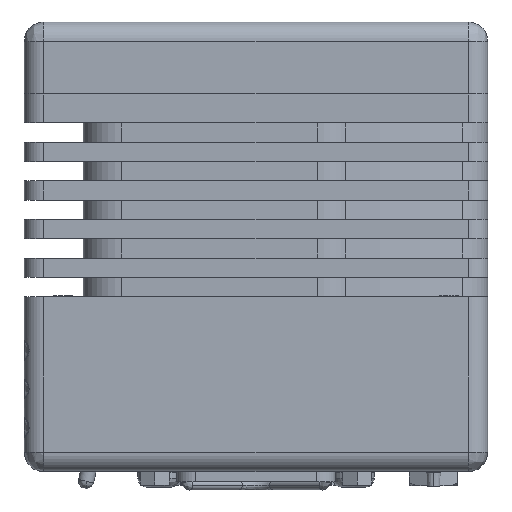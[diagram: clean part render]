
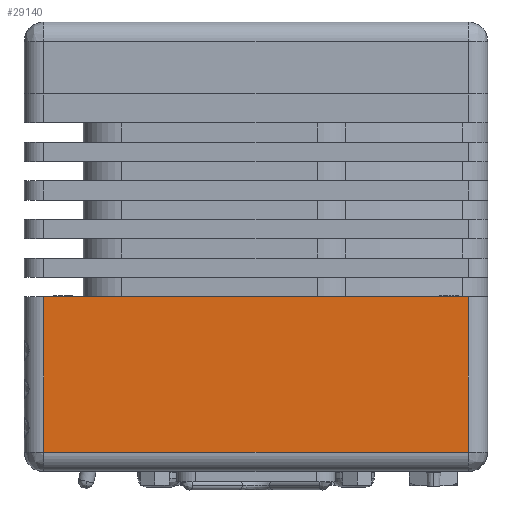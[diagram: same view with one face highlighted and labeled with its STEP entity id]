
A CAD part, left-side view. The second image highlights one B-rep face of the part: STEP entity #29140.
In plain terms, the highlighted planar face has unit normal (-1, 0, 0).
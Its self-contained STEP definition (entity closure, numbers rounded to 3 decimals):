
#5754 = ORIENTED_EDGE ( 'NONE', *, *, #118698, .T. ) ;
#14984 = PLANE ( 'NONE',  #15855 ) ;
#15855 = AXIS2_PLACEMENT_3D ( 'NONE', #109037, #140019, #98382 ) ;
#29140 = ADVANCED_FACE ( 'NONE', ( #186643 ), #14984, .F. ) ;
#33235 = VERTEX_POINT ( 'NONE', #96225 ) ;
#37521 = ORIENTED_EDGE ( 'NONE', *, *, #100964, .F. ) ;
#41449 = DIRECTION ( 'NONE',  ( 0., 1., 0. ) ) ;
#44587 = CARTESIAN_POINT ( 'NONE',  ( -38.1, -34.925, -27.083 ) ) ;
#48113 = VERTEX_POINT ( 'NONE', #169984 ) ;
#74121 = CARTESIAN_POINT ( 'NONE',  ( -38.1, -34.925, -39.878 ) ) ;
#75453 = CARTESIAN_POINT ( 'NONE',  ( -38.1, 0., -39.878 ) ) ;
#80418 = EDGE_LOOP ( 'NONE', ( #87336, #119629, #37521, #5754 ) ) ;
#87336 = ORIENTED_EDGE ( 'NONE', *, *, #157818, .T. ) ;
#90129 = DIRECTION ( 'NONE',  ( 0., 0., 1. ) ) ;
#96225 = CARTESIAN_POINT ( 'NONE',  ( -38.1, 34.925, -39.878 ) ) ;
#98382 = DIRECTION ( 'NONE',  ( 0., -1., 0. ) ) ;
#98818 = VERTEX_POINT ( 'NONE', #120503 ) ;
#100964 = EDGE_CURVE ( 'NONE', #123182, #33235, #104466, .T. ) ;
#104466 = LINE ( 'NONE', #75453, #132742 ) ;
#109037 = CARTESIAN_POINT ( 'NONE',  ( -38.1, 34.925, -14.287 ) ) ;
#118698 = EDGE_CURVE ( 'NONE', #123182, #48113, #125191, .T. ) ;
#119629 = ORIENTED_EDGE ( 'NONE', *, *, #148570, .T. ) ;
#120021 = LINE ( 'NONE', #183153, #140097 ) ;
#120503 = CARTESIAN_POINT ( 'NONE',  ( -38.1, 34.925, -14.287 ) ) ;
#123182 = VERTEX_POINT ( 'NONE', #74121 ) ;
#125191 = LINE ( 'NONE', #44587, #162183 ) ;
#132742 = VECTOR ( 'NONE', #185154, 1000. ) ;
#140019 = DIRECTION ( 'NONE',  ( 1., 0., 0. ) ) ;
#140097 = VECTOR ( 'NONE', #41449, 1000. ) ;
#145528 = CARTESIAN_POINT ( 'NONE',  ( -38.1, 34.925, -27.083 ) ) ;
#147561 = DIRECTION ( 'NONE',  ( 0., 0., -1. ) ) ;
#148570 = EDGE_CURVE ( 'NONE', #98818, #33235, #160095, .T. ) ;
#157818 = EDGE_CURVE ( 'NONE', #48113, #98818, #120021, .T. ) ;
#160095 = LINE ( 'NONE', #145528, #164072 ) ;
#162183 = VECTOR ( 'NONE', #90129, 1000. ) ;
#164072 = VECTOR ( 'NONE', #147561, 1000. ) ;
#169984 = CARTESIAN_POINT ( 'NONE',  ( -38.1, -34.925, -14.287 ) ) ;
#183153 = CARTESIAN_POINT ( 'NONE',  ( -38.1, 0., -14.287 ) ) ;
#185154 = DIRECTION ( 'NONE',  ( 0., 1., 0. ) ) ;
#186643 = FACE_OUTER_BOUND ( 'NONE', #80418, .T. ) ;
